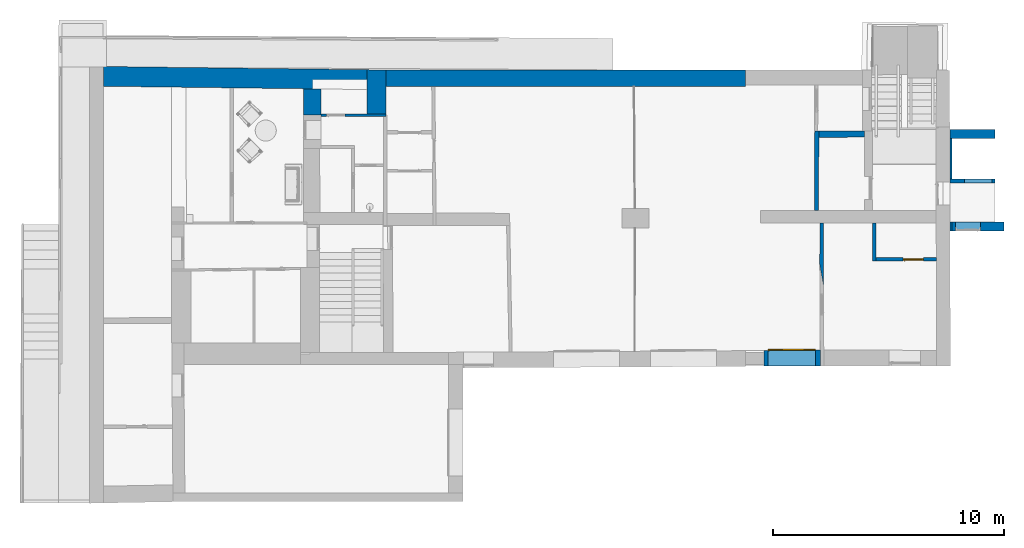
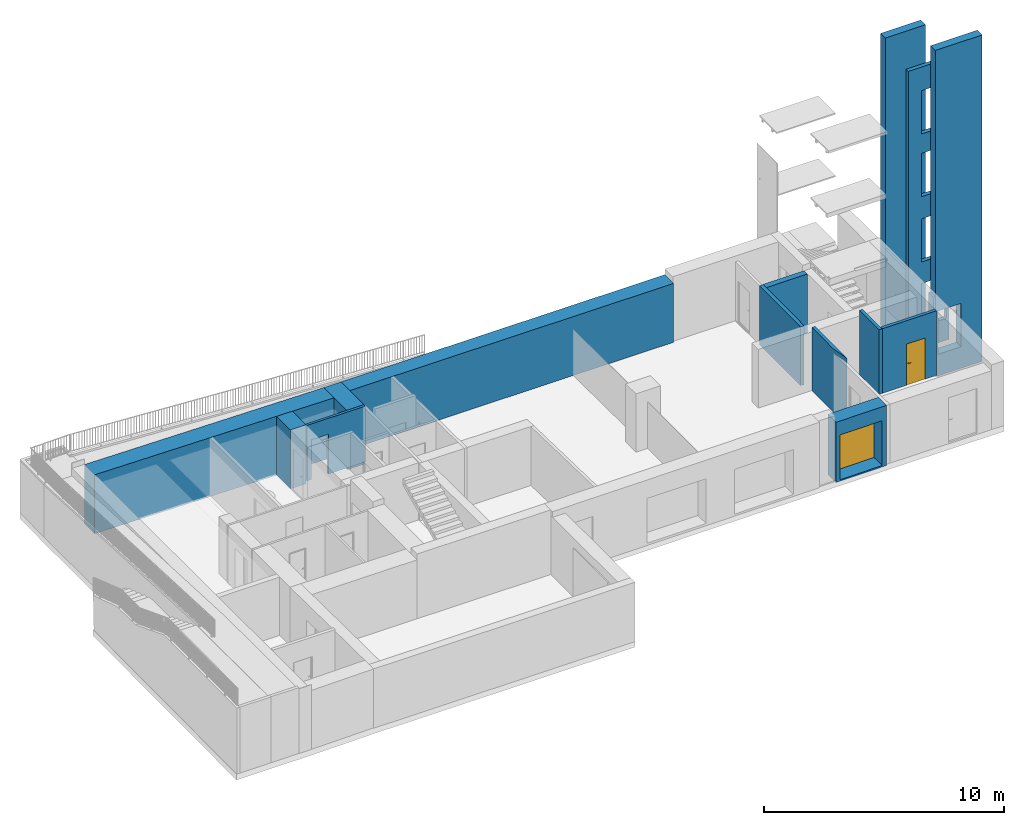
# One storey, part 4 of 17: 16 walls, 2 doors, 8 openings.
"""IFC2X3 building model written with IfcOpenShell, lengths in millimetres."""

from ifc_helpers import new_model, entity, si_unit, converted_unit, derived_unit, direction, frame, frame_2d, origin, origin_2d_with_axis, place, context, subcontext, project, spatial, polyline, rectangle, outline, extrude, clip, bounded_halfspace, faceted_brep, source, transform, mapped, material, material_list, layer, layer_set, layer_usage, type_object, type_shapes, element, fill, save


model = new_model("IFC2X3")

# Units and contexts
model_context = context("Model", 3, precision=0.01, world=origin(), true_north=direction((6.12303176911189e-17, 1.0)))
context_of_model = context(None, 3, precision=0.01, world=origin(), true_north=direction((6.12303176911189e-17, 1.0)))
body_context = subcontext(model_context, "Body", "Model", "MODEL_VIEW")
ifc_project = project(units=[si_unit("LENGTHUNIT", "METRE", prefix="MILLI"), si_unit("AREAUNIT", "SQUARE_METRE"), si_unit("VOLUMEUNIT", "CUBIC_METRE"), converted_unit("PLANEANGLEUNIT", "DEGREE", entity("IfcRatioMeasure", 0.0174532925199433), si_unit("PLANEANGLEUNIT", "RADIAN"), dimensions=[0, 0, 0, 0, 0, 0, 0]), si_unit("MASSUNIT", "GRAM", prefix="KILO"), derived_unit("MASSDENSITYUNIT", [(si_unit("MASSUNIT", "GRAM", prefix="KILO"), 1), (si_unit("LENGTHUNIT", "METRE"), -3)]), si_unit("TIMEUNIT", "SECOND"), si_unit("FREQUENCYUNIT", "HERTZ"), si_unit("THERMODYNAMICTEMPERATUREUNIT", "DEGREE_CELSIUS"), derived_unit("THERMALTRANSMITTANCEUNIT", [(si_unit("MASSUNIT", "GRAM", prefix="KILO"), 1), (si_unit("THERMODYNAMICTEMPERATUREUNIT", "KELVIN"), -1), (si_unit("TIMEUNIT", "SECOND"), -3)]), derived_unit("VOLUMETRICFLOWRATEUNIT", [(si_unit("LENGTHUNIT", "METRE"), 3), (si_unit("TIMEUNIT", "SECOND"), -1)]), si_unit("ELECTRICCURRENTUNIT", "AMPERE"), si_unit("ELECTRICVOLTAGEUNIT", "VOLT"), si_unit("POWERUNIT", "WATT"), si_unit("FORCEUNIT", "NEWTON", prefix="KILO"), si_unit("ILLUMINANCEUNIT", "LUX"), si_unit("LUMINOUSFLUXUNIT", "LUMEN"), si_unit("LUMINOUSINTENSITYUNIT", "CANDELA"), derived_unit("USERDEFINED", [(si_unit("MASSUNIT", "GRAM", prefix="KILO"), -1), (si_unit("LENGTHUNIT", "METRE"), -2), (si_unit("TIMEUNIT", "SECOND"), 3), (si_unit("LUMINOUSFLUXUNIT", "LUMEN"), 1)]), derived_unit("LINEARVELOCITYUNIT", [(si_unit("LENGTHUNIT", "METRE"), 1), (si_unit("TIMEUNIT", "SECOND"), -1)]), si_unit("PRESSUREUNIT", "PASCAL"), derived_unit("USERDEFINED", [(si_unit("LENGTHUNIT", "METRE"), -2), (si_unit("MASSUNIT", "GRAM", prefix="KILO"), 1), (si_unit("TIMEUNIT", "SECOND"), -2)])], contexts=[model_context, context_of_model])

# Site, building, storey
site_placement = place(None, frame((121442.264707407, 135347.995453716, -1800.0)))
site = spatial("IfcSite", under=ifc_project, at=site_placement, Name="Surface", CompositionType="ELEMENT")
building_placement = place(site_placement, origin())
building = spatial("IfcBuilding", under=site, at=building_placement, CompositionType="ELEMENT")
storey_placement = place(building_placement, frame((0.0, 0.0, -1490.0)))
storey = spatial("IfcBuildingStorey", under=building, at=storey_placement, Name="Kelder", CompositionType="ELEMENT", Elevation=-1489.99999999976)

# Wall
ifc_material_1 = material(Name="__Betoonelement")
ifc_layer_1 = layer(ifc_material_1, 160.0)
ifc_layer_set_1 = layer_set([ifc_layer_1], Name="Basic Wall:16_Betoon 2")
ifc_layer_usage_1 = layer_usage(ifc_layer_set_1, "AXIS2", "POSITIVE", -80.0)
wall_type_1 = type_object("IfcWallType", Name="Basic Wall:16_Betoon 2", PredefinedType="STANDARD", material=ifc_layer_set_1)
wall_1_placement = place(storey_placement, frame((-87533.3370756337, -124157.706729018, 0.0), z_axis=(0.0, 0.0, 1.0), x_axis=(0.00425203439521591, 0.999990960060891, 0.0)))
element("IfcWallStandardCase", 1, at=wall_1_placement, inside=storey, type_object=wall_type_1, material=ifc_layer_usage_1, Name="Basic Wall:16_Betoon 2", ObjectType="Basic Wall:16_Betoon 2", context=body_context, shape_type="SweptSolid", body=[
    extrude(outline(polyline([(2669.39645485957, -80.0), (2668.71612320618, 80.0), (877.05352227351, 80.0), (438.52676113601, 0.0), (0.0, -80.0), (2669.39645485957, -80.0)])), origin(), (0.0, 0.0, 1.0), 3215.0),
])

# Wall, openings
ifc_layer_2 = layer(ifc_material_1, 190.0)
ifc_layer_set_2 = layer_set([ifc_layer_2], Name="Basic Wall:19_Betoon 2")
ifc_layer_usage_2 = layer_usage(ifc_layer_set_2, "AXIS2", "POSITIVE", -95.0)
wall_type_2 = type_object("IfcWallType", Name="Basic Wall:19_Betoon 2", PredefinedType="STANDARD", material=ifc_layer_set_2)
wall_2_placement = place(storey_placement, frame((-81962.1362985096, -119660.289468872, -1100.0)))
wall_2 = element("IfcWallStandardCase", 2, at=wall_2_placement, inside=storey, type_object=wall_type_2, material=ifc_layer_usage_2, Name="Basic Wall:19_Betoon 2", ObjectType="Basic Wall:19_Betoon 2", context=body_context, shape_type="SweptSolid", body=[
    extrude(outline(polyline([(1944.85511496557, -95.0), (1944.85511496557, 95.0), (0.0, 95.0), (0.493878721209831, -95.0), (1944.85511496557, -95.0)])), origin(), (0.0, 0.0, 1.0), 14305.0),
])
opening_1_placement = place(wall_2_placement, origin())
element("IfcOpeningElement", 3, at=opening_1_placement, cuts=wall_2, Name="Basic Wall:19_Betoon 2", ObjectType="Opening", context=body_context, shape_type="SweptSolid", body=[
    extrude(rectangle(XDim=2200.0, YDim=1181.3967334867, at=origin_2d_with_axis()), frame((1232.16880460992, -95.0, 2200.0), z_axis=(0.0, 1.0, 0.0), x_axis=(0.0, 0.0, -1.0)), (0.0, 0.0, 1.0), 189.999999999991),
])
opening_2_placement = place(wall_2_placement, origin())
element("IfcOpeningElement", 4, at=opening_2_placement, cuts=wall_2, Name="Basic Wall:19_Betoon 2", ObjectType="Opening", context=body_context, shape_type="SweptSolid", body=[
    extrude(rectangle(XDim=2200.0, YDim=1181.3967334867, at=frame_2d((-2.27373675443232e-13, 0.0), x_axis=(1.0, 0.0))), frame((1232.16880460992, -95.0, 5490.0), z_axis=(0.0, 1.0, 0.0), x_axis=(0.0, 0.0, -1.0)), (0.0, 0.0, 1.0), 189.999999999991),
])
opening_3_placement = place(wall_2_placement, origin())
element("IfcOpeningElement", 5, at=opening_3_placement, cuts=wall_2, Name="Basic Wall:19_Betoon 2", ObjectType="Opening", context=body_context, shape_type="SweptSolid", body=[
    extrude(rectangle(XDim=2200.0, YDim=1181.3967334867, at=origin_2d_with_axis()), frame((1232.16880460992, -95.0, 8815.0), z_axis=(0.0, 1.0, 0.0), x_axis=(0.0, 0.0, -1.0)), (0.0, 0.0, 1.0), 189.999999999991),
])
opening_4_placement = place(wall_2_placement, origin())
element("IfcOpeningElement", 6, at=opening_4_placement, cuts=wall_2, Name="Basic Wall:19_Betoon 2", ObjectType="Opening", context=body_context, shape_type="SweptSolid", body=[
    extrude(rectangle(XDim=2200.0, YDim=1181.3967334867, at=frame_2d((-5.6843418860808e-13, 0.0), x_axis=(1.0, 0.0))), frame((1232.16880460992, -95.0, 12005.0), z_axis=(0.0, 1.0, 0.0), x_axis=(0.0, 0.0, -1.0)), (0.0, 0.0, 1.0), 189.999999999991),
])

# Walls
ifc_layer_3 = layer(ifc_material_1, 860.0)
ifc_layer_set_3 = layer_set([ifc_layer_3], Name="Basic Wall:86_Betoon 3")
ifc_layer_usage_3 = layer_usage(ifc_layer_set_3, "AXIS2", "NEGATIVE", 430.0)
wall_type_3 = type_object("IfcWallType", Name="Basic Wall:86_Betoon 3", PredefinedType="STANDARD", material=ifc_layer_set_3)
wall_3_placement = place(storey_placement, frame((-118685.066920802, -115122.259509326, 0.0), z_axis=(0.0, 0.0, 1.0), x_axis=(0.999923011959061, -0.0124084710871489, 0.0)))
element("IfcWallStandardCase", 7, at=wall_3_placement, inside=storey, type_object=wall_type_3, material=ifc_layer_usage_3, Name="Basic Wall:86_Betoon 3", ObjectType="Basic Wall:86_Betoon 3", context=body_context, shape_type="Clipping", body=[
    clip(extrude(outline(polyline([(11442.2052544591, -430.0), (11431.5331476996, 430.0), (0.0, 430.0), (10.6721067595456, -430.0), (8694.76131527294, -430.0), (9454.81983068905, -430.0), (11442.2052544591, -430.0)])), origin(), (0.0, 0.0, 1.0), 2997.0), bounded_halfspace(frame((2964.85421117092, -430.0, 2997.0), z_axis=(0.0, 0.0, -1.0), x_axis=(0.0124084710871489, -0.999923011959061, 0.0)), True, frame((2964.85421117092, -430.0, 2997.0)), polyline([(0.0, 0.0), (5729.90710410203, 0.0), (6489.96561951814, 0.0), (8477.35104328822, 0.0), (8466.77545767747, 852.221949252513), (-9.27032655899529, 747.039082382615), (0.0, 0.0)]))),
])
ifc_layer_4 = layer(ifc_material_1, 760.0)
ifc_layer_set_4 = layer_set([ifc_layer_4], Name="Basic Wall:76_Betoon 5")
ifc_layer_usage_4 = layer_usage(ifc_layer_set_4, "AXIS2", "POSITIVE", -380.0)
wall_type_4 = type_object("IfcWallType", Name="Basic Wall:76_Betoon 5", PredefinedType="STANDARD", material=ifc_layer_set_4)
wall_4_placement = place(storey_placement, frame((-109616.310640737, -115660.115098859, 0.0), z_axis=(0.0, 0.0, 1.0), x_axis=(0.0, -1.0, 0.0)))
element("IfcWallStandardCase", 8, at=wall_4_placement, inside=storey, type_object=wall_type_4, material=ifc_layer_usage_4, Name="Basic Wall:76_Betoon 5", ObjectType="Basic Wall:76_Betoon 5", context=body_context, shape_type="Clipping", body=[
    clip(extrude(outline(polyline([(1147.66353366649, -380.0), (1147.66353366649, 380.0), (9.43116411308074, 380.0), (0.0, -380.0), (1147.66353366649, -380.0)])), origin(), (0.0, 0.0, 1.0), 2997.0), bounded_halfspace(frame((0.0, -380.0, 2997.0), z_axis=(0.0, 0.0, -1.0), x_axis=(1.0, 0.0, 0.0)), True, frame((0.0, -380.0, 2997.0)), polyline([(0.0, 0.0), (1207.66353366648, 0.0), (1207.66353366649, 760.0), (1087.66353366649, 760.0), (9.43116411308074, 760.0), (0.0, 0.0)]))),
])

# Wall, opening
ifc_layer_5 = layer(ifc_material_1, 120.0)
ifc_layer_set_5 = layer_set([ifc_layer_5], Name="Basic Wall:12_Betoon")
ifc_layer_usage_5 = layer_usage(ifc_layer_set_5, "AXIS2", "NEGATIVE", 60.0)
wall_type_5 = type_object("IfcWallType", Name="Basic Wall:12_Betoon", PredefinedType="STANDARD", material=ifc_layer_set_5)
wall_5_placement = place(storey_placement, frame((-109236.310640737, -116807.778632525, 165.0)))
wall_5 = element("IfcWallStandardCase", 9, at=wall_5_placement, inside=storey, type_object=wall_type_5, material=ifc_layer_usage_5, Name="Basic Wall:12_Betoon", ObjectType="Basic Wall:12_Betoon", context=body_context, shape_type="Clipping", body=[
    clip(extrude(rectangle(XDim=2817.23241885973, YDim=120.000000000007, at=frame_2d((1408.61620942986, 1.17239551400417e-13), x_axis=(-1.0, 0.0))), origin(), (0.0, 0.0, 1.0), 2832.0), bounded_halfspace(frame((0.0, -60.0, 2832.0), z_axis=(0.0, 0.0, -1.0), x_axis=(0.0, -1.0, 0.0)), True, frame((0.0, -60.0, 2832.0)), polyline([(0.0, 0.0), (2709.74414895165, 0.0), (2817.23241885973, 0.0), (2817.23241885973, 120.0), (1987.23241885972, 120.0), (0.0, 120.0), (0.0, 0.0)]))),
])
opening_5_placement = place(wall_5_placement, frame((1040.0, 60.0, -75.0)))
element("IfcOpeningElement", 10, at=opening_5_placement, cuts=wall_5, Name="sma_D01:810 x 2110_SU-04 Siseuks:1", ObjectType="Opening", context=body_context, shape_type="SweptSolid", body=[
    extrude(rectangle(XDim=2099.99999999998, YDim=810.0, at=frame_2d((1049.99999999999, 405.000000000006), x_axis=(1.0, 0.0))), frame((0.0, 0.0, 0.0), z_axis=(0.0, -1.0, 0.0), x_axis=(0.0, 0.0, 1.0)), (0.0, 0.0, 1.0), 120.0),
])

# Walls
ifc_layer_6 = layer(ifc_material_1, 830.0)
ifc_layer_set_6 = layer_set([ifc_layer_6], Name="Basic Wall:83_Betoon 5")
ifc_layer_usage_6 = layer_usage(ifc_layer_set_6, "AXIS2", "POSITIVE", -415.0)
wall_type_6 = type_object("IfcWallType", Name="Basic Wall:83_Betoon 5", PredefinedType="STANDARD", material=ifc_layer_set_6)
wall_6_placement = place(storey_placement, frame((-106834.078221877, -114834.140462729, 14.4238361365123), z_axis=(0.0, 0.0, 1.0), x_axis=(0.0, -1.0, 0.0)))
element("IfcWallStandardCase", 11, at=wall_6_placement, inside=storey, type_object=wall_type_6, material=ifc_layer_usage_6, Name="Basic Wall:83_Betoon 5", ObjectType="Basic Wall:83_Betoon 5", context=body_context, shape_type="Clipping", body=[
    clip(extrude(outline(polyline([(1973.6381697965, -415.0), (1973.6381697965, 415.0), (10.2998239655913, 415.0), (0.0, -415.0), (1973.6381697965, -415.0)])), origin(), (0.0, 0.0, 1.0), 2982.57616386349), bounded_halfspace(frame((7.77864961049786, -415.0, 2982.57616386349), z_axis=(0.0, 0.0, -1.0), x_axis=(1.0, 0.0, 0.0)), True, frame((7.77864961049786, -415.0, 2982.57616386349)), polyline([(0.0, 0.0), (852.287565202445, 0.0), (1905.85952018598, 0.0), (1905.85952018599, 830.0), (2.52117435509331, 830.0), (0.0, 626.833934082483), (0.0, 0.0)]))),
])
ifc_layer_7 = layer(ifc_material_1, 180.0)
ifc_layer_set_7 = layer_set([ifc_layer_7], Name="Basic Wall:18_Betoon 3")
ifc_layer_usage_7 = layer_usage(ifc_layer_set_7, "AXIS2", "NEGATIVE", 90.0)
wall_type_7 = type_object("IfcWallType", Name="Basic Wall:18_Betoon 3", PredefinedType="STANDARD", material=ifc_layer_set_7)
wall_7_placement = place(storey_placement, frame((-87755.3513334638, -120949.225624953, 0.0), z_axis=(0.0, 0.0, 1.0), x_axis=(0.00612285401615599, 0.999981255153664, 0.0)))
element("IfcWallStandardCase", 12, at=wall_7_placement, inside=storey, type_object=wall_type_7, material=ifc_layer_usage_7, Name="Basic Wall:18_Betoon 3", ObjectType="Basic Wall:18_Betoon 3", context=body_context, shape_type="Clipping", body=[
    clip(extrude(outline(polyline([(3449.26331386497, -90.0), (3448.62575941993, -37.8247612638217), (3447.06380691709, 90.0), (0.0, 90.0), (1.10213438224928, -90.0), (3179.24315698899, -90.0), (3449.26331386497, -90.0)])), origin(), (0.0, 0.0, 1.0), 2997.0), bounded_halfspace(frame((1.10213438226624, -90.0, 2997.0), z_axis=(0.0, 0.0, -1.0), x_axis=(-0.999981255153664, -0.00612285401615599, 0.0)), True, frame((1.10213438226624, -90.0, 2997.0)), polyline([(0.0, 0.0), (3178.14102260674, 0.0), (3448.16117948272, 0.0), (3447.52362503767, 52.1752387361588), (3445.96167253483, 180.0), (-1.10213438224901, 180.0), (0.0, 0.0)]))),
])
ifc_layer_8 = layer(ifc_material_1, 270.0)
ifc_layer_set_8 = layer_set([ifc_layer_8], Name="Basic Wall:27_Betoon 3")
ifc_layer_usage_8 = layer_usage(ifc_layer_set_8, "AXIS2", "POSITIVE", -135.0)
wall_type_8 = type_object("IfcWallType", Name="Basic Wall:27_Betoon 3", PredefinedType="STANDARD", material=ifc_layer_set_8)
wall_8_placement = place(storey_placement, frame((-85668.5512104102, -117623.536657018, 0.0), z_axis=(0.0, 0.0, 1.0), x_axis=(-0.999981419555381, -0.00609594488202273, 0.0)))
element("IfcWallStandardCase", 13, at=wall_8_placement, inside=storey, type_object=wall_type_8, material=ifc_layer_usage_8, Name="Basic Wall:27_Betoon 3", ObjectType="Basic Wall:27_Betoon 3", context=body_context, shape_type="Clipping", body=[
    clip(extrude(outline(polyline([(1974.89621624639, -135.0), (1978.19547666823, 135.0), (0.85439000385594, 135.0), (0.0, -135.0), (74.6044845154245, -135.0), (1974.89621624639, -135.0)])), origin(), (0.0, 0.0, 1.0), 2997.0), bounded_halfspace(frame((6.40256651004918, -135.0, 2997.0), z_axis=(0.0, 0.0, -1.0), x_axis=(0.00609594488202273, 0.999981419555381, 0.0)), True, frame((6.40256651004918, -135.0, 2997.0)), polyline([(0.0, 0.0), (1968.49364973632, 0.0), (1971.79291015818, 270.0), (1.64593570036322, 270.0), (0.0, 0.0)]))),
])

# Wall, opening, door
wall_type_9 = type_object("IfcWallType", Name="Basic Wall:68_Betoon", PredefinedType="NOTDEFINED")
wall_9_placement = place(storey_placement, frame((-87580.599978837, -127336.117833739, -60.0), z_axis=(0.0, 0.0, 1.0), x_axis=(-0.999973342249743, -0.00730169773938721, 0.0)))
wall_9 = element("IfcWall", 14, at=wall_9_placement, inside=storey, type_object=wall_type_9, material=ifc_material_1, Name="Basic Wall:68_Betoon", ObjectType="Basic Wall:68_Betoon", context=body_context, shape_type="Brep", body=[
    faceted_brep([(0.0, -340.0, 0.0), (2446.38361472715, -340.0, 0.0), (2446.38361472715, -340.0, 3057.0), (0.0, -340.0, 3057.0), (217.468584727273, -340.0, 70.0), (217.468584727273, -340.0, 2350.0), (2267.46858472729, -340.0, 2350.0), (2267.46858472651, -340.0, 2326.60733293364), (2267.46858472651, -340.0, 74.7900200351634), (2267.46858472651, -340.0, 70.0), (2451.3489015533, 340.0, 0.0), (0.111237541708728, 340.0, 0.0), (0.111237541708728, 340.0, 3057.0), (2451.3489015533, 340.0, 3057.0), (217.468584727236, 340.0, 2350.0), (217.468584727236, 340.0, 70.0), (2267.46858472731, 340.0, 70.0), (2267.46858472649, 340.0, 74.7900200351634), (2267.46858472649, 340.0, 2326.60733293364), (2267.46858472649, 340.0, 2350.0), (0.0503809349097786, -32.0191222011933, 3057.0), (0.111149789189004, 339.463564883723, 3057.0), (2448.50191231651, -49.8974518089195, 3057.0)], [[[0, 1, 2, 3], [4, 5, 6, 7, 8, 9]], [[10, 11, 12, 13], [14, 15, 16, 17, 18, 19]], [[1, 0, 11, 10]], [[0, 3, 20, 21, 12, 11]], [[13, 12, 21, 20, 22]], [[3, 2, 22, 20]], [[4, 15, 14, 5]], [[5, 14, 19, 6]], [[6, 19, 18, 17, 16, 9, 8, 7]], [[15, 4, 9, 16]], [[1, 10, 13, 22, 2]]]),
])
opening_6_placement = place(wall_9_placement, frame((2267.46858472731, 340.0, 70.0)))
opening_6 = element("IfcOpeningElement", 15, at=opening_6_placement, cuts=wall_9, Name="SMA_Overhead-Sectional_3000mm +käiguuks 1000.0002:Tostuks 200 x 228mm:1", ObjectType="Opening", context=body_context, shape_type="SweptSolid", body=[
    extrude(rectangle(XDim=2280.0, YDim=2050.0, at=frame_2d((1140.0, 1025.0), x_axis=(1.0, 0.0))), frame((0.0, 0.0, 0.0), z_axis=(0.0, -1.0, 0.0), x_axis=(0.0, 0.0, 1.0)), (0.0, 0.0, 1.0), 680.0),
])
ifc_material_2 = material(Name="NCS S 1502-G50Y Helmenharmaa, matta, ruisku")
door_style_1 = type_object("IfcDoorStyle", Name="Tostuks 200 x 228mm", ConstructionType="NOTDEFINED", OperationType="SINGLE_SWING_RIGHT", ParameterTakesPrecedence=False, Sizeable=False, material=ifc_material_2)
shared_shape_1 = source(origin(), body_context, "Body", "SweptSolid", [
    extrude(rectangle(XDim=50.0, YDim=2050.00000000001, at=origin_2d_with_axis()), frame((1025.0, -25.0, 0.0), z_axis=(0.0, 0.0, 1.0), x_axis=(0.0, -1.0, 0.0)), (0.0, 0.0, 1.0), 2280.0),
])
type_shapes(door_style_1, [shared_shape_1])
door_1_placement = place(opening_6_placement, frame((-2050.0, -680.0, 0.0)))
door_1 = element("IfcDoor", 16, at=door_1_placement, inside=storey, type_object=door_style_1, material=ifc_material_2, Name="SMA_Overhead-Sectional_3000mm +käiguuks 1000.0002:Tostuks 200 x 228mm", ObjectType="Tostuks 200 x 228mm", OverallHeight=2280.0, OverallWidth=2050.00000000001, context=body_context, shape_type="MappedRepresentation", body=[
    mapped(shared_shape_1, transform((0.0, 0.0, 0.0), scale=1.0)),
])
fill(opening_6, door_1)

# Walls
ifc_layer_9 = layer(ifc_material_1, 730.0)
ifc_layer_set_9 = layer_set([ifc_layer_9], Name="Basic Wall:73_Betoon 3")
ifc_layer_usage_9 = layer_usage(ifc_layer_set_9, "AXIS2", "NEGATIVE", 365.0)
wall_type_10 = type_object("IfcWallType", Name="Basic Wall:73_Betoon 3", PredefinedType="STANDARD", material=ifc_layer_set_9)
wall_10_placement = place(storey_placement, frame((-106738.988695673, -115204.161413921, 0.0)))
element("IfcWallStandardCase", 17, at=wall_10_placement, inside=storey, type_object=wall_type_10, material=ifc_layer_usage_9, Name="Basic Wall:73_Betoon 3", ObjectType="Basic Wall:73_Betoon 3", context=body_context, shape_type="Clipping", body=[
    clip(extrude(rectangle(XDim=15900.5108594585, YDim=730.000000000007, at=frame_2d((7950.25542972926, 2.38742359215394e-12), x_axis=(-1.0, 0.0))), origin(), (0.0, 0.0, 1.0), 2997.0), bounded_halfspace(frame((0.0, -365.0, 2997.0), z_axis=(0.0, 0.0, -1.0), x_axis=(0.0, -1.0, 0.0)), True, frame((0.0, -365.0, 2997.0)), polyline([(0.0, 0.0), (2301.28887880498, 0.0), (2441.29417168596, 0.0), (15900.5108594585, 0.0), (15900.5108594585, 727.242301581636), (0.0, 727.242301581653), (0.0, 0.0)]))),
])
ifc_material_3 = material(Name="Plaster")
ifc_layer_10 = layer(ifc_material_3, 10.0)
ifc_material_4 = material(Name="EST. Müüritis. Väikeplokk. Kergkruusplokk")
ifc_layer_11 = layer(ifc_material_4, 130.0)
ifc_layer_12 = layer(ifc_material_3, 10.0)
ifc_layer_set_10 = layer_set([ifc_layer_10, ifc_layer_11, ifc_layer_12], Name="Basic Wall:15_FIBO")
ifc_layer_usage_10 = layer_usage(ifc_layer_set_10, "AXIS2", "NEGATIVE", 75.0)
wall_type_11 = type_object("IfcWallType", Name="Basic Wall:15_FIBO", PredefinedType="STANDARD", material=ifc_layer_set_10)
wall_11_placement = place(storey_placement, frame((-85243.2559908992, -121488.674568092, 0.0), z_axis=(0.0, 0.0, 1.0), x_axis=(0.0, -1.0, 0.0)))
element("IfcWallStandardCase", 18, at=wall_11_placement, inside=storey, type_object=wall_type_11, material=ifc_layer_usage_10, Name="Basic Wall:15_FIBO", ObjectType="Basic Wall:15_FIBO", context=body_context, shape_type="SweptSolid", body=[
    extrude(rectangle(XDim=1643.73635933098, YDim=150.000000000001, at=frame_2d((821.86817966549, 0.0), x_axis=(-1.0, 0.0))), origin(), (0.0, 0.0, 1.0), 3290.0),
])

# Wall, opening, door
ifc_layer_usage_11 = layer_usage(ifc_layer_set_10, "AXIS2", "NEGATIVE", 75.0)
wall_12_placement = place(storey_placement, frame((-85168.2559908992, -123057.410927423, 0.0)))
wall_12 = element("IfcWallStandardCase", 19, at=wall_12_placement, inside=storey, type_object=wall_type_11, material=ifc_layer_usage_11, Name="Basic Wall:15_FIBO", ObjectType="Basic Wall:15_FIBO", context=body_context, shape_type="SweptSolid", body=[
    extrude(outline(polyline([(0.0, -75.0), (2615.38990425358, -75.0), (2615.0, 75.0), (0.0, 75.0), (0.0, -75.0)])), origin(), (0.0, 0.0, 1.0), 3290.0),
])
opening_7_placement = place(wall_12_placement, frame((2060.61010556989, 75.0, 0.0)))
opening_7 = element("IfcOpeningElement", 20, at=opening_7_placement, cuts=wall_12, Name="sma_D01:900 x 2100mm Tuletokke:1", ObjectType="Opening", context=body_context, shape_type="SweptSolid", body=[
    extrude(rectangle(XDim=2099.99999999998, YDim=900.0, at=frame_2d((1049.99999999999, 450.0), x_axis=(1.0, 0.0))), frame((0.0, 0.0, 0.0), z_axis=(0.0, -1.0, 0.0), x_axis=(0.0, 0.0, 1.0)), (0.0, 0.0, 1.0), 150.0),
])
ifc_material_5 = material(Name="Metal - Aluminium")
ifc_material_6 = material(Name="Metalli - teras- valge")
ifc_material_list_1 = material_list([ifc_material_5, ifc_material_6])
ifc_material_list_2 = material_list([ifc_material_5, ifc_material_6])
door_style_2 = type_object("IfcDoorStyle", Name="900 x 2100mm Tuletokke", ConstructionType="NOTDEFINED", OperationType="SINGLE_SWING_LEFT", ParameterTakesPrecedence=False, Sizeable=False, material=ifc_material_list_2)
shared_shape_2 = source(origin(), body_context, "Body", "Brep", [
    faceted_brep([(800.0, 40.0, 1112.5), (705.0, 40.0, 1112.5), (705.0, 35.0, 1112.5), (825.0, 35.0, 1112.5), (825.0, 78.0, 1112.5), (800.0, 78.0, 1112.5), (800.0, 40.0, 1087.5), (800.0, 78.0, 1087.5), (825.0, 78.0, 1087.5), (825.0, 35.0, 1087.5), (705.0, 35.0, 1087.5), (705.0, 40.0, 1087.5)], [[[0, 1, 2, 3, 4, 5]], [[6, 7, 8, 9, 10, 11]], [[5, 7, 6, 0]], [[4, 8, 7, 5]], [[3, 9, 8, 4]], [[2, 10, 9, 3]], [[1, 11, 10, 2]], [[0, 6, 11, 1]]]),
    faceted_brep([(787.500000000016, 78.0, 1137.5), (837.500000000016, 78.0, 1137.5), (837.500000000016, 80.0, 1137.5), (787.500000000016, 80.0, 1137.5), (787.500000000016, 78.0, 1017.5), (787.500000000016, 80.0, 1017.5), (837.500000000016, 80.0, 1017.5), (837.500000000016, 78.0, 1017.5)], [[[0, 1, 2, 3]], [[4, 5, 6, 7]], [[3, 5, 4, 0]], [[2, 6, 5, 3]], [[1, 7, 6, 2]], [[0, 4, 7, 1]]]),
    faceted_brep([(800.0, 170.0, 1112.5), (800.0, 132.0, 1112.5), (825.0, 132.0, 1112.5), (825.0, 175.0, 1112.5), (705.0, 175.0, 1112.5), (705.0, 170.0, 1112.5), (800.0, 170.0, 1087.5), (705.0, 170.0, 1087.5), (705.0, 175.0, 1087.5), (825.0, 175.0, 1087.5), (825.0, 132.0, 1087.5), (800.0, 132.0, 1087.5)], [[[0, 1, 2, 3, 4, 5]], [[6, 7, 8, 9, 10, 11]], [[1, 0, 6, 11]], [[2, 1, 11, 10]], [[3, 2, 10, 9]], [[4, 3, 9, 8]], [[5, 4, 8, 7]], [[0, 5, 7, 6]]]),
    faceted_brep([(787.500000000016, 132.0, 1137.5), (787.500000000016, 130.0, 1137.5), (837.500000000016, 130.0, 1137.5), (837.500000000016, 132.0, 1137.5), (787.500000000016, 132.0, 1017.5), (837.500000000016, 132.0, 1017.5), (837.500000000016, 130.0, 1017.5), (787.500000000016, 130.0, 1017.5)], [[[0, 1, 2, 3]], [[4, 5, 6, 7]], [[1, 0, 4, 7]], [[2, 1, 7, 6]], [[3, 2, 6, 5]], [[0, 3, 5, 4]]]),
    faceted_brep([(0.0, 40.0, 0.0), (0.0, 130.0, 0.0), (25.0, 130.0, 0.0), (25.0, 80.0, 0.0), (40.0, 80.0, 0.0), (40.0, 40.0, 0.0), (40.0, 40.0, 2060.0), (860.0, 40.0, 2060.0), (860.0, 40.0, 0.0), (900.0, 40.0, 0.0), (900.0, 40.0, 2100.0), (0.0, 40.0, 2100.0), (40.0, 80.0, 2060.0), (25.0, 80.0, 2075.0), (875.0, 80.0, 2075.0), (875.0, 80.0, 0.0), (860.0, 80.0, 0.0), (860.0, 80.0, 2060.0), (25.0, 130.0, 2075.0), (0.0, 130.0, 2100.0), (900.0, 130.0, 2100.0), (900.0, 130.0, 0.0), (875.0, 130.0, 0.0), (875.0, 130.0, 2075.0)], [[[0, 1, 2, 3, 4, 5]], [[5, 6, 7, 8, 9, 10, 11, 0]], [[4, 12, 6, 5]], [[3, 13, 14, 15, 16, 17, 12, 4]], [[2, 18, 13, 3]], [[1, 19, 20, 21, 22, 23, 18, 2]], [[0, 11, 19, 1]], [[10, 9, 21, 20]], [[9, 8, 16, 15, 22, 21]], [[17, 16, 8, 7]], [[23, 22, 15, 14]], [[12, 17, 7, 6]], [[18, 23, 14, 13]], [[11, 10, 20, 19]]]),
    faceted_brep([(875.0, 80.0, 2075.0), (25.0, 80.0, 2075.0), (25.0, 80.0, 20.0), (875.0, 80.0, 20.0), (875.0, 130.0, 2075.0), (875.0, 130.0, 20.0), (25.0, 130.0, 20.0), (25.0, 130.0, 2075.0)], [[[0, 1, 2, 3]], [[4, 5, 6, 7]], [[3, 5, 4, 0]], [[2, 6, 5, 3]], [[1, 7, 6, 2]], [[0, 4, 7, 1]]]),
    faceted_brep([(40.0, 40.0, 30.0), (40.0, 80.0, 30.0), (40.0, 80.0, 20.0), (40.0, 80.0, 0.0), (40.0, 40.0, 0.0), (860.0, 40.0, 30.0), (860.0, 40.0, 0.0), (860.0, 80.0, 0.0), (860.0, 80.0, 20.0), (860.0, 80.0, 30.0), (25.0, 80.0, 0.0), (25.0, 130.0, 0.0), (875.0, 130.0, 0.0), (875.0, 80.0, 0.0), (25.0, 130.0, 20.0), (25.0, 80.0, 20.0), (875.0, 130.0, 20.0), (875.0, 80.0, 20.0)], [[[0, 1, 2, 3, 4]], [[5, 6, 7, 8, 9]], [[4, 6, 5, 0]], [[3, 10, 11, 12, 13, 7, 6, 4]], [[9, 8, 2, 1]], [[0, 5, 9, 1]], [[14, 11, 10, 15]], [[16, 17, 13, 12]], [[15, 2, 8, 17, 16, 14]], [[10, 3, 2, 15]], [[14, 16, 12, 11]], [[17, 8, 7, 13]]]),
])
type_shapes(door_style_2, [shared_shape_2])
door_2_placement = place(opening_7_placement, frame((0.0, 0.0, 0.0), z_axis=(0.0, 0.0, 1.0), x_axis=(-1.0, 0.0, 0.0)))
door_2 = element("IfcDoor", 21, at=door_2_placement, inside=storey, type_object=door_style_2, material=ifc_material_list_1, Name="sma_D01:900 x 2100mm Tuletokke", ObjectType="900 x 2100mm Tuletokke", OverallHeight=2099.99999999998, OverallWidth=900.000000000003, context=body_context, shape_type="MappedRepresentation", body=[
    mapped(shared_shape_2, transform((0.0, 0.0, 0.0), scale=1.0)),
])
fill(opening_7, door_2)

# Wall, opening
ifc_material_7 = material(Name="NCS S 2570-R Syvä punainen, matta, ruisku")
ifc_layer_13 = layer(ifc_material_7, 1.0)
ifc_layer_14 = layer(ifc_material_3, 10.0)
ifc_material_8 = material(Name="EST. Soojustus. Kivivill. Default")
ifc_layer_15 = layer(ifc_material_8, 200.0)
ifc_material_9 = material(Name="EST. Müüritis. Väikeplokk. Betoon-õõnesplokk")
ifc_layer_16 = layer(ifc_material_9, 190.0)
ifc_layer_set_11 = layer_set([ifc_layer_13, ifc_layer_14, ifc_layer_15, ifc_layer_16], Name="Basic Wall:Välissein Betoon190 + Soojustus 200")
ifc_layer_usage_12 = layer_usage(ifc_layer_set_11, "AXIS2", "POSITIVE", -200.5)
wall_type_12 = type_object("IfcWallType", Name="Basic Wall:Välissein Betoon190 + Soojustus 200", PredefinedType="STANDARD", material=ifc_layer_set_11)
wall_13_placement = place(storey_placement, frame((-81865.9803800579, -121633.599932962, -1100.0)))
wall_13 = element("IfcWallStandardCase", 22, at=wall_13_placement, inside=storey, type_object=wall_type_12, material=ifc_layer_usage_12, Name="Basic Wall:Välissein Betoon190 + Soojustus 200", ObjectType="Basic Wall:Välissein Betoon190 + Soojustus 200", context=body_context, shape_type="SweptSolid", body=[
    extrude(rectangle(XDim=2249.69919651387, YDim=400.999999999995, at=frame_2d((1124.84959825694, 0.0), x_axis=(-1.0, 0.0))), origin(), (0.0, 0.0, 1.0), 16600.0),
])
opening_8_placement = place(wall_13_placement, frame((1236.39983505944, 200.499999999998, 1100.0)))
element("IfcOpeningElement", 23, at=opening_8_placement, cuts=wall_13, Name="M_Door-Exterior-Single-Two_Lite:Valisuks 1000x2100:1", ObjectType="Opening", context=body_context, shape_type="SweptSolid", body=[
    extrude(rectangle(XDim=2200.0, YDim=1100.0, at=frame_2d((1100.0, 550.0), x_axis=(1.0, 0.0))), frame((0.0, 0.0, 0.0), z_axis=(0.0, -1.0, 0.0), x_axis=(0.0, 0.0, 1.0)), (0.0, 0.0, 1.0), 401.0),
])

# Walls
ifc_layer_usage_13 = layer_usage(ifc_layer_set_11, "AXIS2", "POSITIVE", -200.5)
wall_14_placement = place(storey_placement, frame((-80017.2811835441, -117618.461952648, -1100.0), z_axis=(0.0, 0.0, 1.0), x_axis=(-1.0, 0.0, 0.0)))
element("IfcWallStandardCase", 24, at=wall_14_placement, inside=storey, type_object=wall_type_12, material=ifc_layer_usage_13, Name="Basic Wall:Välissein Betoon190 + Soojustus 200", ObjectType="Basic Wall:Välissein Betoon190 + Soojustus 200", context=body_context, shape_type="SweptSolid", body=[
    extrude(rectangle(XDim=1939.69919651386, YDim=400.999999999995, at=frame_2d((969.849598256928, 0.0), x_axis=(-1.0, 0.0))), origin(), (0.0, 0.0, 1.0), 14825.0),
])
ifc_layer_17 = layer(ifc_material_7, 1.0)
ifc_layer_18 = layer(ifc_material_1, 90.0)
ifc_layer_set_12 = layer_set([ifc_layer_17, ifc_layer_18], Name="Basic Wall:8_Betoon 2")
ifc_layer_usage_14 = layer_usage(ifc_layer_set_12, "AXIS2", "NEGATIVE", 45.5)
wall_type_13 = type_object("IfcWallType", Name="Basic Wall:8_Betoon 2", PredefinedType="STANDARD", material=ifc_layer_set_12)
wall_15_placement = place(storey_placement, frame((-81911.4803800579, -117818.961952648, 0.0), z_axis=(0.0, 0.0, 1.0), x_axis=(0.0, -1.0, 0.0)))
element("IfcWallStandardCase", 25, at=wall_15_placement, inside=storey, type_object=wall_type_13, material=ifc_layer_usage_14, Name="Basic Wall:8_Betoon 2", ObjectType="Basic Wall:8_Betoon 2", context=body_context, shape_type="SweptSolid", body=[
    extrude(rectangle(XDim=1746.32751622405, YDim=90.9999999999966, at=frame_2d((873.163758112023, 0.0), x_axis=(-1.0, 0.0))), origin(), (0.0, 0.0, 1.0), 2990.0),
])
ifc_layer_usage_15 = layer_usage(ifc_layer_set_12, "AXIS2", "POSITIVE", -45.5)
wall_16_placement = place(storey_placement, frame((-81911.4803800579, -121834.099932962, 0.0), z_axis=(0.0, 0.0, 1.0), x_axis=(0.0, 1.0, 0.0)))
element("IfcWallStandardCase", 26, at=wall_16_placement, inside=storey, type_object=wall_type_13, material=ifc_layer_usage_15, Name="Basic Wall:8_Betoon 2", ObjectType="Basic Wall:8_Betoon 2", context=body_context, shape_type="SweptSolid", body=[
    extrude(rectangle(XDim=400.999999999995, YDim=90.9999999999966, at=frame_2d((200.499999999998, 0.0), x_axis=(-1.0, 0.0))), origin(), (0.0, 0.0, 1.0), 2990.0),
])

save(model, "model.ifc")
